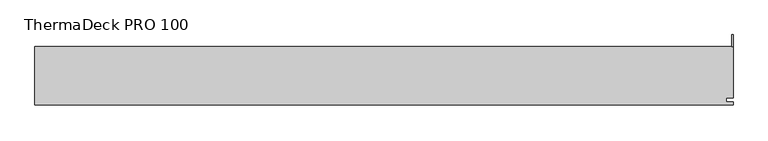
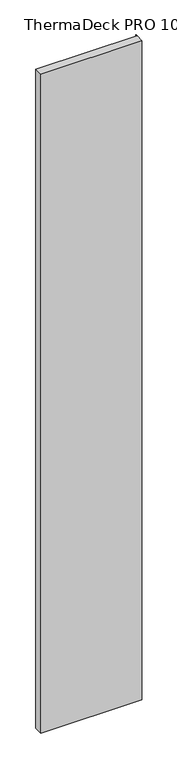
"""IFC4 building model written with IfcOpenShell, lengths in millimetres: plate geometry, Europanels_ThermaDeck PRO_Vt : ThermaDeck PRO 100."""

from ifc_helpers import new_model, si_unit, origin, origin_with_axes, place, context, project, spatial, polyline, outline, extrude, source, transform, mapped, element, save


def thermadeck_pro_100_5b1dee86(model_context):
    return source(origin(), model_context, "Body", "SweptSolid", [
        extrude(outline(polyline([(592.0, 50.0), (592.0, 70.0), (594.0, 70.0), (594.0, 50.0), (592.0, 50.0)])), origin_with_axes(), (0.0, 0.0, 1.0), 8180.0),
        extrude(outline(polyline([(-594.0, -50.0), (-594.0, 50.0), (594.0, 50.0), (594.0, -37.8855682), (582.0447029, -37.8855682), (582.0447029, -45.0), (594.0, -45.0), (594.0, -50.0), (-594.0, -50.0)])), origin_with_axes(), (0.0, 0.0, 1.0), 8180.0),
    ])


if __name__ == "__main__":
    model = new_model("IFC4")
    model_context = context("Model", 3, world=origin())
    ifc_project = project(units=[si_unit("LENGTHUNIT", "METRE", prefix="MILLI")], contexts=[model_context])
    site = spatial("IfcSite", under=ifc_project)
    building = spatial("IfcBuilding", under=site)
    placement = place(None, origin())
    thermadeck_pro_100_shape = thermadeck_pro_100_5b1dee86(model_context)
    element("IfcPlate", 1, ObjectType="Europanels_ThermaDeck PRO_Vt : ThermaDeck PRO 100", at=placement, inside=building, context=model_context, shape_type="MappedRepresentation", body=[
        mapped(thermadeck_pro_100_shape, transform((0.0, 0.0, 0.0), x_axis=(1.0, 0.0, 0.0), y_axis=(0.0, 1.0, 0.0), z_axis=(0.0, 0.0, 1.0))),
    ])
    save(model, "model.ifc")
